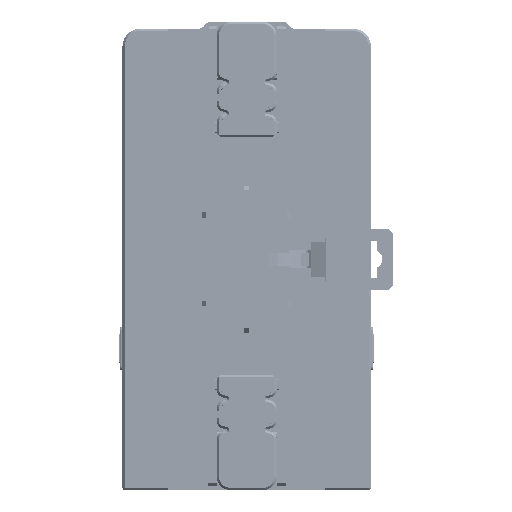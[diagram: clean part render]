
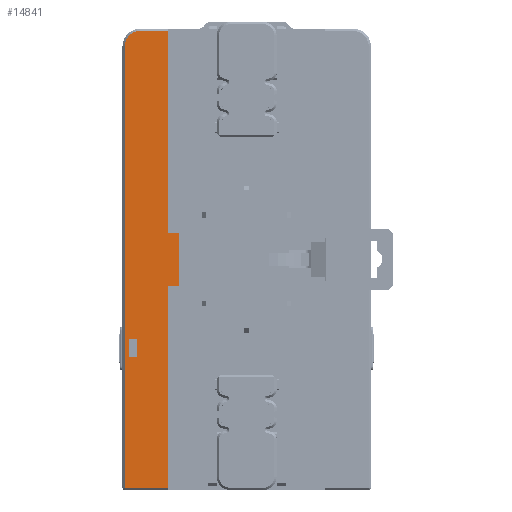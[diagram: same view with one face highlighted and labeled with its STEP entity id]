
A CAD part, front view. The second image highlights one B-rep face of the part: STEP entity #14841.
In plain terms, the highlighted planar face has unit normal (0, -1, 0).
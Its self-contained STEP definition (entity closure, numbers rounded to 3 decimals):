
#1487=FACE_BOUND('',#40369,.T.);
#1488=FACE_BOUND('',#40370,.T.);
#5128=PLANE('',#225894);
#14841=ADVANCED_FACE('',(#1487,#1488),#5128,.T.);
#40369=EDGE_LOOP('',(#76165,#76166,#76167,#76168,#76169,#76170,#76171,#76172,
#76173));
#40370=EDGE_LOOP('',(#76174,#76175,#76176,#76177));
#51353=CIRCLE('',#225893,3.5);
#76165=ORIENTED_EDGE('',*,*,#150844,.T.);
#76166=ORIENTED_EDGE('',*,*,#150845,.T.);
#76167=ORIENTED_EDGE('',*,*,#150846,.F.);
#76168=ORIENTED_EDGE('',*,*,#150847,.F.);
#76169=ORIENTED_EDGE('',*,*,#150848,.F.);
#76170=ORIENTED_EDGE('',*,*,#150849,.F.);
#76171=ORIENTED_EDGE('',*,*,#150850,.F.);
#76172=ORIENTED_EDGE('',*,*,#150851,.T.);
#76173=ORIENTED_EDGE('',*,*,#150852,.T.);
#76174=ORIENTED_EDGE('',*,*,#150684,.T.);
#76175=ORIENTED_EDGE('',*,*,#150843,.T.);
#76176=ORIENTED_EDGE('',*,*,#150853,.F.);
#76177=ORIENTED_EDGE('',*,*,#150854,.F.);
#126673=VERTEX_POINT('',#320591);
#126676=VERTEX_POINT('',#320596);
#126763=VERTEX_POINT('',#320908);
#126764=VERTEX_POINT('',#320912);
#126765=VERTEX_POINT('',#320913);
#126766=VERTEX_POINT('',#320915);
#126767=VERTEX_POINT('',#320917);
#126768=VERTEX_POINT('',#320919);
#126769=VERTEX_POINT('',#320921);
#126770=VERTEX_POINT('',#320923);
#126771=VERTEX_POINT('',#320925);
#126772=VERTEX_POINT('',#320927);
#126773=VERTEX_POINT('',#320930);
#150684=EDGE_CURVE('',#126673,#126676,#179829,.T.);
#150843=EDGE_CURVE('',#126676,#126763,#179972,.T.);
#150844=EDGE_CURVE('',#126764,#126765,#179973,.T.);
#150845=EDGE_CURVE('',#126765,#126766,#179974,.T.);
#150846=EDGE_CURVE('',#126767,#126766,#179975,.T.);
#150847=EDGE_CURVE('',#126768,#126767,#179976,.T.);
#150848=EDGE_CURVE('',#126769,#126768,#179977,.T.);
#150849=EDGE_CURVE('',#126770,#126769,#179978,.T.);
#150850=EDGE_CURVE('',#126771,#126770,#179979,.T.);
#150851=EDGE_CURVE('',#126771,#126772,#179980,.T.);
#150852=EDGE_CURVE('',#126772,#126764,#51353,.T.);
#150853=EDGE_CURVE('',#126773,#126763,#179981,.T.);
#150854=EDGE_CURVE('',#126673,#126773,#179982,.T.);
#179829=LINE('',#320597,#203626);
#179972=LINE('',#320909,#203769);
#179973=LINE('',#320911,#203770);
#179974=LINE('',#320914,#203771);
#179975=LINE('',#320916,#203772);
#179976=LINE('',#320918,#203773);
#179977=LINE('',#320920,#203774);
#179978=LINE('',#320922,#203775);
#179979=LINE('',#320924,#203776);
#179980=LINE('',#320926,#203777);
#179981=LINE('',#320929,#203778);
#179982=LINE('',#320931,#203779);
#203626=VECTOR('',#254977,1.);
#203769=VECTOR('',#255284,1.);
#203770=VECTOR('',#255287,1.);
#203771=VECTOR('',#255288,1.);
#203772=VECTOR('',#255289,1.);
#203773=VECTOR('',#255290,1.);
#203774=VECTOR('',#255291,1.);
#203775=VECTOR('',#255292,1.);
#203776=VECTOR('',#255293,1.);
#203777=VECTOR('',#255294,1.);
#203778=VECTOR('',#255297,1.);
#203779=VECTOR('',#255298,1.);
#225893=AXIS2_PLACEMENT_3D('',#320928,#255295,#255296);
#225894=AXIS2_PLACEMENT_3D('',#320932,#255299,#255300);
#254977=DIRECTION('',(0.,0.,1.));
#255284=DIRECTION('',(1.,0.,0.));
#255287=DIRECTION('',(0.,0.,-1.));
#255288=DIRECTION('',(1.,0.,0.));
#255289=DIRECTION('',(0.,0.,-1.));
#255290=DIRECTION('',(-1.,0.,0.));
#255291=DIRECTION('',(0.,0.,-1.));
#255292=DIRECTION('',(1.,0.,0.));
#255293=DIRECTION('',(0.,0.,-1.));
#255294=DIRECTION('',(-1.,0.,0.));
#255295=DIRECTION('',(0.,-1.,0.));
#255296=DIRECTION('',(0.,0.,-1.));
#255297=DIRECTION('',(0.,0.,1.));
#255298=DIRECTION('',(1.,0.,0.));
#255299=DIRECTION('',(0.,-1.,0.));
#255300=DIRECTION('',(-1.,0.,0.));
#320591=CARTESIAN_POINT('',(-131.11,148.342,174.066));
#320596=CARTESIAN_POINT('',(-131.11,148.342,178.066));
#320597=CARTESIAN_POINT('',(-131.11,148.342,226.638));
#320908=CARTESIAN_POINT('',(-129.41,148.342,178.066));
#320909=CARTESIAN_POINT('',(-122.338,148.342,178.066));
#320911=CARTESIAN_POINT('',(-132.088,148.342,226.638));
#320912=CARTESIAN_POINT('',(-132.088,148.342,244.138));
#320913=CARTESIAN_POINT('',(-132.088,148.342,144.638));
#320914=CARTESIAN_POINT('',(-122.338,148.342,144.638));
#320915=CARTESIAN_POINT('',(-122.338,148.342,144.638));
#320916=CARTESIAN_POINT('',(-122.338,148.342,157.138));
#320917=CARTESIAN_POINT('',(-122.338,148.342,190.138));
#320918=CARTESIAN_POINT('',(-134.719,148.342,190.138));
#320919=CARTESIAN_POINT('',(-119.88,148.342,190.138));
#320920=CARTESIAN_POINT('',(-119.88,148.342,217.64));
#320921=CARTESIAN_POINT('',(-119.88,148.342,202.138));
#320922=CARTESIAN_POINT('',(-134.719,148.342,202.138));
#320923=CARTESIAN_POINT('',(-122.338,148.342,202.138));
#320924=CARTESIAN_POINT('',(-122.338,148.342,237.388));
#320925=CARTESIAN_POINT('',(-122.338,148.342,247.638));
#320926=CARTESIAN_POINT('',(-122.338,148.342,247.638));
#320927=CARTESIAN_POINT('',(-128.588,148.342,247.638));
#320928=CARTESIAN_POINT('',(-128.588,148.342,244.138));
#320929=CARTESIAN_POINT('',(-129.41,148.342,226.638));
#320930=CARTESIAN_POINT('',(-129.41,148.342,174.066));
#320931=CARTESIAN_POINT('',(-122.338,148.342,174.066));
#320932=CARTESIAN_POINT('',(-122.338,148.342,226.638));
